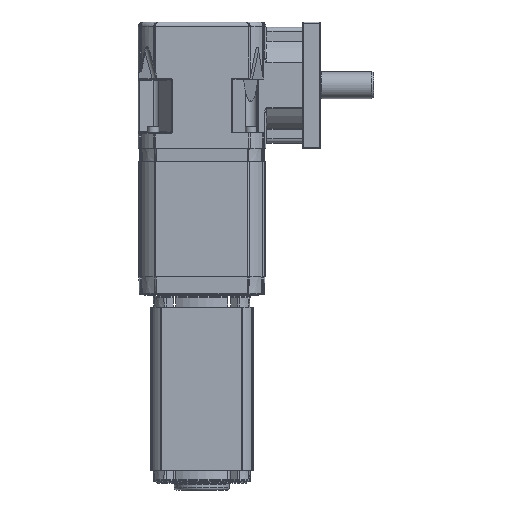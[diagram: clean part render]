
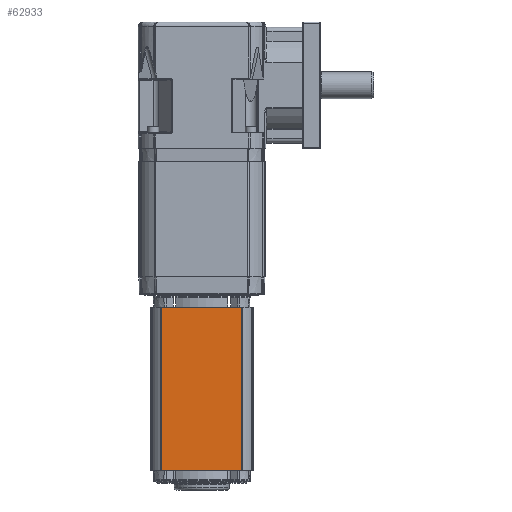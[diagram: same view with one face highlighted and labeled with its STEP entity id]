
A CAD part, front view. The second image highlights one B-rep face of the part: STEP entity #62933.
In plain terms, the highlighted planar face has unit normal (0, -1, 0).
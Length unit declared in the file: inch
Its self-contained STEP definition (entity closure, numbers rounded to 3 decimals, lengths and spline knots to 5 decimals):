
#2749 = LINE ( 'NONE', #54022, #16488 ) ;
#3669 = EDGE_LOOP ( 'NONE', ( #19566, #41397, #72686, #61636 ) ) ;
#4239 = EDGE_CURVE ( 'NONE', #57785, #29721, #58448, .T. ) ;
#6002 = VERTEX_POINT ( 'NONE', #28520 ) ;
#8802 = PLANE ( 'NONE',  #42224 ) ;
#16488 = VECTOR ( 'NONE', #71656, 39.37008 ) ;
#19566 = ORIENTED_EDGE ( 'NONE', *, *, #28789, .T. ) ;
#20842 = CARTESIAN_POINT ( 'NONE',  ( -1.1475, -1.442, -10.951 ) ) ;
#21190 = VECTOR ( 'NONE', #50776, 39.37008 ) ;
#23300 = FACE_OUTER_BOUND ( 'NONE', #3669, .T. ) ;
#26631 = DIRECTION ( 'NONE',  ( 1., 0., 0. ) ) ;
#27583 = VECTOR ( 'NONE', #35902, 39.37008 ) ;
#28520 = CARTESIAN_POINT ( 'NONE',  ( -1.1275, -1.442, -10.816 ) ) ;
#28789 = EDGE_CURVE ( 'NONE', #48815, #6002, #36628, .T. ) ;
#29721 = VERTEX_POINT ( 'NONE', #50329 ) ;
#32722 = CARTESIAN_POINT ( 'NONE',  ( -1.1475, -1.442, -6.233 ) ) ;
#35902 = DIRECTION ( 'NONE',  ( 0., 0., 1. ) ) ;
#36628 = LINE ( 'NONE', #51020, #21190 ) ;
#39413 = CARTESIAN_POINT ( 'NONE',  ( -1.1275, -1.442, -6.233 ) ) ;
#39551 = VECTOR ( 'NONE', #67529, 39.37008 ) ;
#41397 = ORIENTED_EDGE ( 'NONE', *, *, #66960, .F. ) ;
#42224 = AXIS2_PLACEMENT_3D ( 'NONE', #20842, #61411, #26631 ) ;
#48815 = VERTEX_POINT ( 'NONE', #39413 ) ;
#50329 = CARTESIAN_POINT ( 'NONE',  ( 1.1275, -1.442, -6.233 ) ) ;
#50776 = DIRECTION ( 'NONE',  ( 0., 0., -1. ) ) ;
#51020 = CARTESIAN_POINT ( 'NONE',  ( -1.1275, -1.442, -10.951 ) ) ;
#54022 = CARTESIAN_POINT ( 'NONE',  ( 1.1275, -1.442, -10.816 ) ) ;
#54968 = LINE ( 'NONE', #32722, #39551 ) ;
#57785 = VERTEX_POINT ( 'NONE', #66715 ) ;
#58448 = LINE ( 'NONE', #58604, #27583 ) ;
#58604 = CARTESIAN_POINT ( 'NONE',  ( 1.1275, -1.442, -10.951 ) ) ;
#60763 = EDGE_CURVE ( 'NONE', #48815, #29721, #54968, .T. ) ;
#61411 = DIRECTION ( 'NONE',  ( 0., -1., 0. ) ) ;
#61636 = ORIENTED_EDGE ( 'NONE', *, *, #60763, .F. ) ;
#62933 = ADVANCED_FACE ( 'NONE', ( #23300 ), #8802, .T. ) ;
#66715 = CARTESIAN_POINT ( 'NONE',  ( 1.1275, -1.442, -10.816 ) ) ;
#66960 = EDGE_CURVE ( 'NONE', #57785, #6002, #2749, .T. ) ;
#67529 = DIRECTION ( 'NONE',  ( 1., 0., 0. ) ) ;
#71656 = DIRECTION ( 'NONE',  ( -1., 0., 0. ) ) ;
#72686 = ORIENTED_EDGE ( 'NONE', *, *, #4239, .T. ) ;
